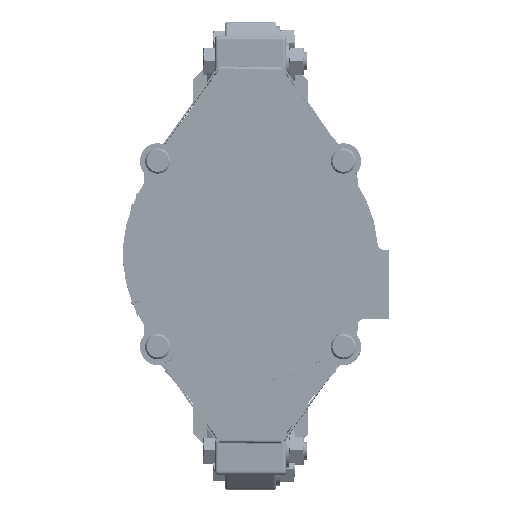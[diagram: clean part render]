
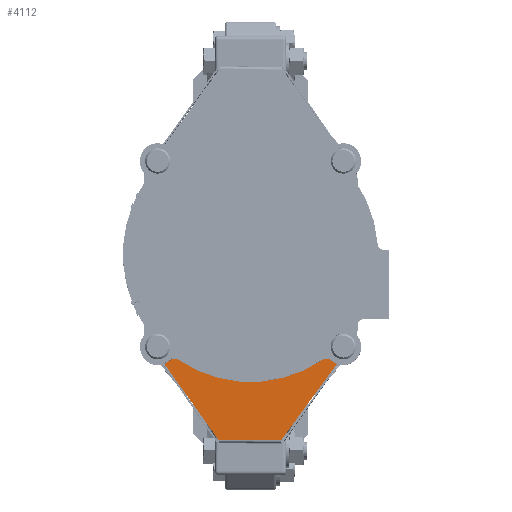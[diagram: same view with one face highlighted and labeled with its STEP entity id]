
A CAD part, top view. The second image highlights one B-rep face of the part: STEP entity #4112.
In plain terms, the highlighted planar face has unit normal (0, 0, 1).
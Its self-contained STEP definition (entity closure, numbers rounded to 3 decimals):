
#4112=ADVANCED_FACE('',(#12692),#12693,.F.);
#12692=FACE_OUTER_BOUND('',#26347,.T.);
#12693=PLANE('',#26348);
#26347=EDGE_LOOP('',(#57613,#57614,#57615,#57616,#57617,#57618,#57619));
#26348=AXIS2_PLACEMENT_3D('',#57620,#57621,#57622);
#57613=ORIENTED_EDGE('',*,*,#73214,.T.);
#57614=ORIENTED_EDGE('',*,*,#73218,.T.);
#57615=ORIENTED_EDGE('',*,*,#73219,.T.);
#57616=ORIENTED_EDGE('',*,*,#73220,.T.);
#57617=ORIENTED_EDGE('',*,*,#73221,.T.);
#57618=ORIENTED_EDGE('',*,*,#73222,.T.);
#57619=ORIENTED_EDGE('',*,*,#73223,.T.);
#57620=CARTESIAN_POINT('',(-45.756,-96.37,521.032));
#57621=DIRECTION('',(0.,0.,-1.));
#57622=DIRECTION('',(-0.009,-1.,0.));
#73214=EDGE_CURVE('',#90325,#90326,#90327,.T.);
#73218=EDGE_CURVE('',#90326,#90333,#90334,.T.);
#73219=EDGE_CURVE('',#90333,#90335,#90336,.T.);
#73220=EDGE_CURVE('',#90335,#90337,#90338,.T.);
#73221=EDGE_CURVE('',#90337,#90339,#90340,.T.);
#73222=EDGE_CURVE('',#90339,#90341,#90342,.T.);
#73223=EDGE_CURVE('',#90341,#90325,#90343,.T.);
#90325=VERTEX_POINT('',#121497);
#90326=VERTEX_POINT('',#121498);
#90327=LINE('',#121499,#121500);
#90333=VERTEX_POINT('',#121509);
#90334=LINE('',#121510,#121511);
#90335=VERTEX_POINT('',#121512);
#90336=LINE('',#121513,#121514);
#90337=VERTEX_POINT('',#121515);
#90338=LINE('',#121516,#121517);
#90339=VERTEX_POINT('',#121518);
#90340=LINE('',#121519,#121520);
#90341=VERTEX_POINT('',#121521);
#90342=LINE('',#121522,#121523);
#90343=LINE('',#121524,#121525);
#121497=CARTESIAN_POINT('',(-70.038,-64.157,521.032));
#121498=CARTESIAN_POINT('',(-22.615,-130.573,521.032));
#121499=CARTESIAN_POINT('',(-46.465,-97.17,521.032));
#121500=VECTOR('',#142108,10.);
#121509=CARTESIAN_POINT('',(-22.5,-130.574,521.032));
#121510=CARTESIAN_POINT('',(68.978,-131.373,521.032));
#121511=VECTOR('',#142112,10.);
#121512=CARTESIAN_POINT('',(21.514,-130.958,521.032));
#121513=CARTESIAN_POINT('',(68.978,-131.373,521.032));
#121514=VECTOR('',#142113,10.);
#121515=CARTESIAN_POINT('',(69.554,-65.375,521.032));
#121516=CARTESIAN_POINT('',(30.023,-119.342,521.032));
#121517=VECTOR('',#142114,10.);
#121518=CARTESIAN_POINT('',(69.572,-63.375,521.032));
#121519=CARTESIAN_POINT('',(69.572,-63.375,521.032));
#121520=VECTOR('',#142115,10.);
#121521=CARTESIAN_POINT('',(-70.02,-62.157,521.032));
#121522=CARTESIAN_POINT('',(-70.02,-62.157,521.032));
#121523=VECTOR('',#142116,10.);
#121524=CARTESIAN_POINT('',(-70.613,-130.155,521.032));
#121525=VECTOR('',#142117,10.);
#142108=DIRECTION('',(0.581,-0.814,0.));
#142112=DIRECTION('',(1.,-0.009,0.));
#142113=DIRECTION('',(1.,-0.009,0.));
#142114=DIRECTION('',(0.591,0.807,0.));
#142115=DIRECTION('',(0.009,1.,0.));
#142116=DIRECTION('',(-1.,0.009,0.));
#142117=DIRECTION('',(-0.009,-1.,0.));
